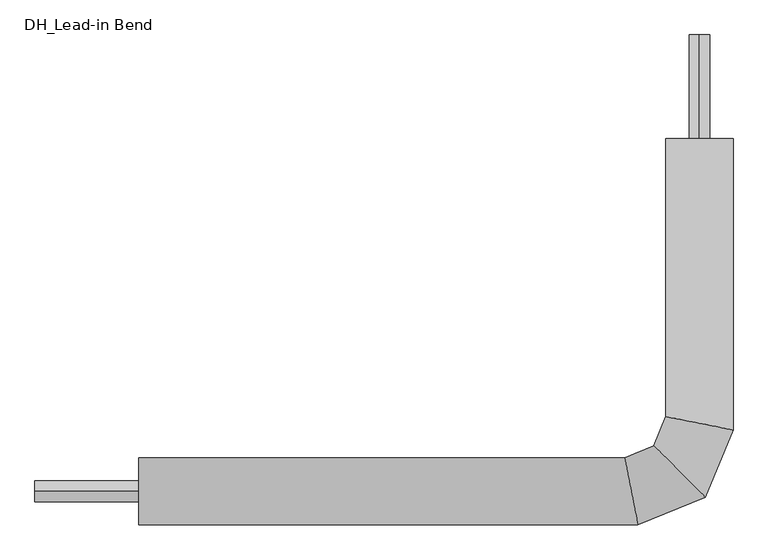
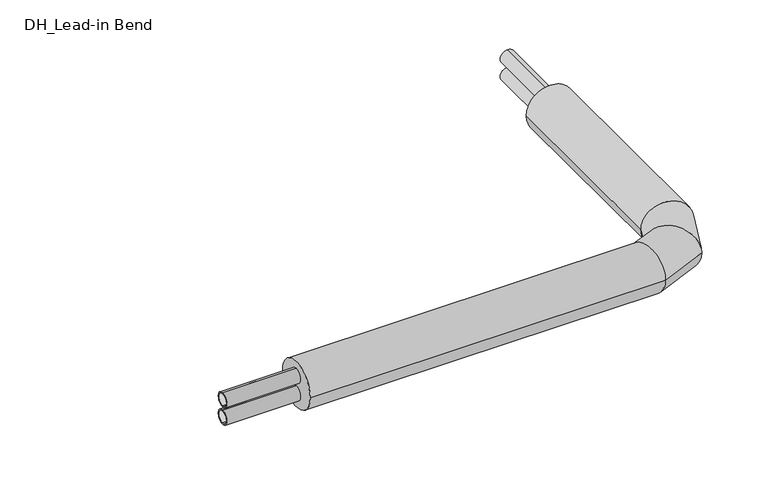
"""IFC4 building model written with IfcOpenShell, lengths in millimetres: pipe fitting geometry, DH_Lead-in Bend : RVT/RVX/RTX DUO 11 Heating Horizontal."""

from ifc_helpers import new_model, si_unit, point, frame, frame_2d, origin, place, context, project, spatial, circle_curve, ellipse_curve, trimmed, segment, composite_curve, outline, extrude, source, transform, mapped, element, save
from ifc_brep_helpers import plane_surface, cylinder_surface, advanced_brep


def dh_lead_in_bend_e5b3f16c(model_context):
    return source(origin(), model_context, "Body", "SolidModel", [
        extrude(outline(composite_curve([segment(trimmed(circle_curve(frame_2d((0.0, -31.0)), 25.0), [point((0.0, -6.0))], [point((0.0, -56.0))], False, "CARTESIAN"), True, "CONTINUOUS"), segment(trimmed(circle_curve(frame_2d((0.0, -31.0)), 25.0), [point((0.0, -56.0))], [point((0.0, -6.0))], False, "CARTESIAN"), True, "CONTINUOUS")], self_intersect=False), holes=[composite_curve([segment(trimmed(circle_curve(frame_2d((0.0, -31.0)), 20.4), [point((0.0, -10.6))], [point((0.0, -51.4))], True, "CARTESIAN"), True, "CONTINUOUS"), segment(trimmed(circle_curve(frame_2d((0.0, -31.0)), 20.4), [point((0.0, -51.4))], [point((0.0, -10.6))], True, "CARTESIAN"), True, "CONTINUOUS")], self_intersect=False)]), frame((-1600.0, 0.0, 0.0), z_axis=(1.0, 0.0, 0.0), x_axis=(0.0, 1.0, 0.0)), (0.0, 0.0, 1.0), 250.0),
        extrude(outline(composite_curve([segment(trimmed(circle_curve(frame_2d((31.0, 0.0)), 25.0), [point((6.0, 0.0))], [point((56.0, 0.0))], False, "CARTESIAN"), True, "CONTINUOUS"), segment(trimmed(circle_curve(frame_2d((31.0, 0.0)), 25.0), [point((56.0, 0.0))], [point((6.0, 0.0))], False, "CARTESIAN"), True, "CONTINUOUS")], self_intersect=False), holes=[composite_curve([segment(trimmed(circle_curve(frame_2d((31.0, 0.0)), 20.4), [point((10.6, 0.0))], [point((51.4, 0.0))], True, "CARTESIAN"), True, "CONTINUOUS"), segment(trimmed(circle_curve(frame_2d((31.0, 0.0)), 20.4), [point((51.4, 0.0))], [point((10.6, 0.0))], True, "CARTESIAN"), True, "CONTINUOUS")], self_intersect=False)]), frame((0.0, 850.0, 0.0), z_axis=(0.0, 1.0, 0.0), x_axis=(0.0, 0.0, 1.0)), (0.0, 0.0, 1.0), 250.0),
        advanced_brep(
        [(-1350.0, -81.0, 0.0), (-1350.0, 81.0, 0.0), (-147.9880982, -81.0, 0.0), (-180.2119018, 81.0, 0.0), (81.0, 850.0, 0.0), (-81.0, 850.0, 0.0), (-81.0, 180.2119018, 0.0), (81.0, 147.9880982, 0.0), (13.9309388, -13.9309388, 0.0), (-110.0584933, 110.0584933, 0.0)],
        [
            (0, 1, circle_curve(frame((-1350.0, 0.0, 0.0), z_axis=(-1.0, 0.0, 0.0), x_axis=(0.0, 1.0, 0.0)), 81.0)),
            (1, 0, circle_curve(frame((-1350.0, 0.0, 0.0), z_axis=(-1.0, 0.0, 0.0), x_axis=(0.0, 1.0, 0.0)), 81.0)),
            (0, 2),
            (2, 3, ellipse_curve(frame((-164.1, 0.0, 0.0), z_axis=(-0.9807852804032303, -0.19509032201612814, 0.0), x_axis=(-0.19509032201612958, 0.9807852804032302, 0.0)), 82.5868838, 81.0)),
            (3, 1),
            (3, 2, ellipse_curve(frame((-164.1, 0.0, 0.0), z_axis=(-0.9807852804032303, -0.19509032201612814, 0.0), x_axis=(-0.19509032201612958, 0.9807852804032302, 0.0)), 82.5868838, 81.0)),
            (4, 5, circle_curve(frame((0.0, 850.0, 0.0), z_axis=(0.0, 1.0, 0.0), x_axis=(-1.0, 0.0, 0.0)), 81.0)),
            (5, 4, circle_curve(frame((0.0, 850.0, 0.0), z_axis=(0.0, 1.0, 0.0), x_axis=(-1.0, 0.0, 0.0)), 81.0)),
            (6, 7, ellipse_curve(frame((0.0, 164.1, 0.0), z_axis=(0.19509032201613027, 0.9807852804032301, 0.0), x_axis=(0.9807852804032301, -0.1950903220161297, 0.0)), 82.5868838, 81.0)),
            (7, 4),
            (5, 6),
            (7, 6, ellipse_curve(frame((0.0, 164.1, 0.0), z_axis=(0.19509032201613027, 0.9807852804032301, 0.0), x_axis=(0.9807852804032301, -0.1950903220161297, 0.0)), 82.5868838, 81.0)),
            (2, 8),
            (8, 9, ellipse_curve(frame((-48.0637772, 48.0637772, 0.0), z_axis=(-0.707106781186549, -0.7071067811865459, 0.0), x_axis=(-0.7071067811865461, 0.7071067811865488, 0.0)), 87.6737682, 81.0)),
            (9, 3),
            (9, 8, ellipse_curve(frame((-48.0637772, 48.0637772, 0.0), z_axis=(-0.707106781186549, -0.7071067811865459, 0.0), x_axis=(-0.7071067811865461, 0.7071067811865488, 0.0)), 87.6737682, 81.0)),
            (8, 7),
            (6, 9),
        ],
        [
            plane_surface(frame((-1350.0, 0.0, 0.0), z_axis=(-1.0, 0.0, 0.0), x_axis=(0.0, 0.0, 1.0))),
            cylinder_surface(frame((-1350.0, 0.0, 0.0), z_axis=(-1.0, 0.0, 0.0), x_axis=(0.0, 1.0, 0.0)), 81.0),
            plane_surface(frame((0.0, 850.0, 0.0), z_axis=(0.0, 1.0, 0.0), x_axis=(0.0, 0.0, 1.0))),
            cylinder_surface(frame((0.0, 164.1, 0.0), z_axis=(0.0, -1.0, 0.0), x_axis=(-1.0, 0.0, 0.0)), 81.0),
            cylinder_surface(frame((-164.1, 0.0, 0.0), z_axis=(-0.9238795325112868, -0.3826834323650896, 0.0), x_axis=(-0.3826834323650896, 0.9238795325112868, 0.0)), 81.0),
            cylinder_surface(frame((-48.0637772, 48.0637772, 0.0), z_axis=(-0.3826834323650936, -0.9238795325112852, 0.0), x_axis=(-0.9238795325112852, 0.3826834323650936, 0.0)), 81.0),
        ],
        [
            (0, [[1, 2]]),
            (1, [[-1, 3, 4, 5]]),
            (1, [[-2, -5, 6, -3]]),
            (2, [[7, 8]]),
            (3, [[9, 10, -8, 11]]),
            (3, [[12, -11, -7, -10]]),
            (4, [[-4, 13, 14, 15]]),
            (4, [[-6, -15, 16, -13]]),
            (5, [[-14, 17, -9, 18]]),
            (5, [[-16, -18, -12, -17]]),
        ],
    ),
        extrude(outline(composite_curve([segment(trimmed(circle_curve(frame_2d((0.0, 31.0)), 25.0), [point((0.0, 6.0))], [point((0.0, 56.0))], False, "CARTESIAN"), True, "CONTINUOUS"), segment(trimmed(circle_curve(frame_2d((0.0, 31.0)), 25.0), [point((0.0, 56.0))], [point((0.0, 6.0))], False, "CARTESIAN"), True, "CONTINUOUS")], self_intersect=False), holes=[composite_curve([segment(trimmed(circle_curve(frame_2d((0.0, 31.0)), 20.4), [point((0.0, 10.6))], [point((0.0, 51.4))], True, "CARTESIAN"), True, "CONTINUOUS"), segment(trimmed(circle_curve(frame_2d((0.0, 31.0)), 20.4), [point((0.0, 51.4))], [point((0.0, 10.6))], True, "CARTESIAN"), True, "CONTINUOUS")], self_intersect=False)]), frame((-1600.0, 0.0, 0.0), z_axis=(1.0, 0.0, 0.0), x_axis=(0.0, 1.0, 0.0)), (0.0, 0.0, 1.0), 250.0),
        extrude(outline(composite_curve([segment(trimmed(circle_curve(frame_2d((-31.0, 0.0)), 25.0), [point((-6.0, 0.0))], [point((-56.0, 0.0))], False, "CARTESIAN"), True, "CONTINUOUS"), segment(trimmed(circle_curve(frame_2d((-31.0, 0.0)), 25.0), [point((-56.0, 0.0))], [point((-6.0, 0.0))], False, "CARTESIAN"), True, "CONTINUOUS")], self_intersect=False), holes=[composite_curve([segment(trimmed(circle_curve(frame_2d((-31.0, 0.0)), 20.4), [point((-10.6, 0.0))], [point((-51.4, 0.0))], True, "CARTESIAN"), True, "CONTINUOUS"), segment(trimmed(circle_curve(frame_2d((-31.0, 0.0)), 20.4), [point((-51.4, 0.0))], [point((-10.6, 0.0))], True, "CARTESIAN"), True, "CONTINUOUS")], self_intersect=False)]), frame((0.0, 850.0, 0.0), z_axis=(0.0, 1.0, 0.0), x_axis=(0.0, 0.0, 1.0)), (0.0, 0.0, 1.0), 250.0),
    ])


if __name__ == "__main__":
    model = new_model("IFC4")
    model_context = context("Model", 3, world=origin())
    ifc_project = project(units=[si_unit("LENGTHUNIT", "METRE", prefix="MILLI")], contexts=[model_context])
    site = spatial("IfcSite", under=ifc_project)
    building = spatial("IfcBuilding", under=site)
    placement = place(None, origin())
    dh_lead_in_bend_shape = dh_lead_in_bend_e5b3f16c(model_context)
    element("IfcPipeFitting", 1, ObjectType="DH_Lead-in Bend : RVT/RVX/RTX DUO 11 Heating Horizontal", at=placement, inside=building, context=model_context, shape_type="MappedRepresentation", body=[
        mapped(dh_lead_in_bend_shape, transform((0.0, 0.0, 0.0), x_axis=(1.0, 0.0, 0.0), y_axis=(0.0, 1.0, 0.0), z_axis=(0.0, 0.0, 1.0))),
    ])
    save(model, "model.ifc")
